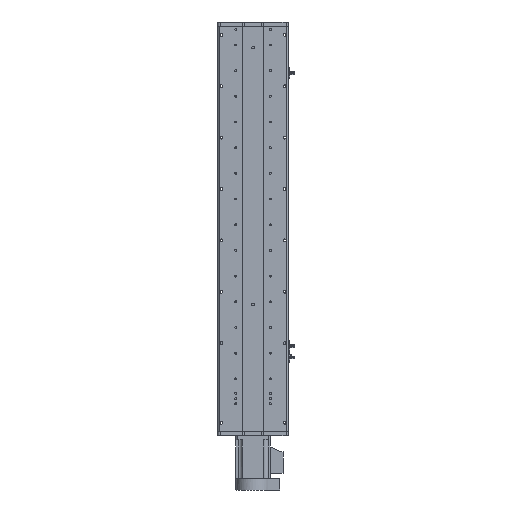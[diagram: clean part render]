
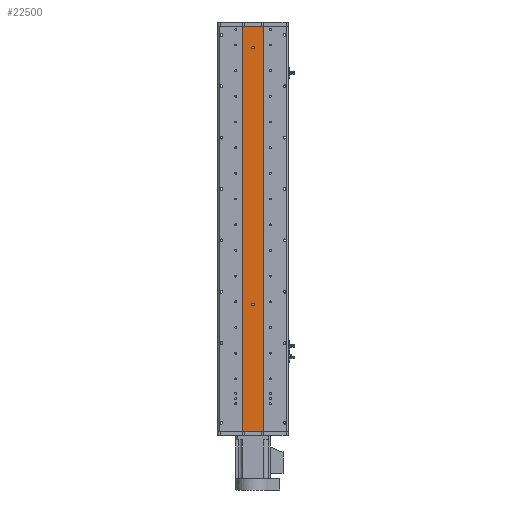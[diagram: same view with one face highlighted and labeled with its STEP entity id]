
A CAD part, front view. The second image highlights one B-rep face of the part: STEP entity #22500.
In plain terms, the highlighted planar face has unit normal (0, -1, 0).
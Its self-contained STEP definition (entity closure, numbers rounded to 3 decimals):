
#1372 = FACE_BOUND ( 'NONE', #15438, .T. ) ;
#1475 = CARTESIAN_POINT ( 'NONE',  ( -25., 1., 473. ) ) ;
#1587 = DIRECTION ( 'NONE',  ( 0., 0., -1. ) ) ;
#1902 = CARTESIAN_POINT ( 'NONE',  ( -25., 1., -473. ) ) ;
#2091 = CIRCLE ( 'NONE', #23851, 3. ) ;
#2110 = AXIS2_PLACEMENT_3D ( 'NONE', #37664, #19552, #1587 ) ;
#2176 = DIRECTION ( 'NONE',  ( 1., 0., 0. ) ) ;
#2999 = VERTEX_POINT ( 'NONE', #35002 ) ;
#3934 = EDGE_CURVE ( 'NONE', #17075, #25843, #2091, .T. ) ;
#5853 = VECTOR ( 'NONE', #22475, 1000. ) ;
#5854 = DIRECTION ( 'NONE',  ( 0., 0., -1. ) ) ;
#6751 = VERTEX_POINT ( 'NONE', #11586 ) ;
#6777 = LINE ( 'NONE', #1475, #5853 ) ;
#8964 = LINE ( 'NONE', #23827, #32605 ) ;
#9540 = ORIENTED_EDGE ( 'NONE', *, *, #3934, .F. ) ;
#10008 = AXIS2_PLACEMENT_3D ( 'NONE', #29385, #11315, #32426 ) ;
#10253 = CARTESIAN_POINT ( 'NONE',  ( 0., 1., -177. ) ) ;
#10382 = CARTESIAN_POINT ( 'NONE',  ( 0., 1., -174. ) ) ;
#10748 = EDGE_CURVE ( 'NONE', #35870, #37829, #29818, .T. ) ;
#11134 = DIRECTION ( 'NONE',  ( 0., 0., 1. ) ) ;
#11315 = DIRECTION ( 'NONE',  ( 0., -1., 0. ) ) ;
#11586 = CARTESIAN_POINT ( 'NONE',  ( 25., 1., 473. ) ) ;
#12208 = ORIENTED_EDGE ( 'NONE', *, *, #26473, .F. ) ;
#13281 = DIRECTION ( 'NONE',  ( 0., 0., -1. ) ) ;
#13345 = ORIENTED_EDGE ( 'NONE', *, *, #35517, .T. ) ;
#14920 = CARTESIAN_POINT ( 'NONE',  ( 0., 1., 423. ) ) ;
#15148 = CARTESIAN_POINT ( 'NONE',  ( 25., 1., -473. ) ) ;
#15435 = ORIENTED_EDGE ( 'NONE', *, *, #30311, .T. ) ;
#15438 = EDGE_LOOP ( 'NONE', ( #9540, #17898 ) ) ;
#15713 = VERTEX_POINT ( 'NONE', #15148 ) ;
#15885 = EDGE_CURVE ( 'NONE', #25843, #17075, #26753, .T. ) ;
#17075 = VERTEX_POINT ( 'NONE', #29277 ) ;
#17550 = EDGE_LOOP ( 'NONE', ( #33706, #36881 ) ) ;
#17898 = ORIENTED_EDGE ( 'NONE', *, *, #15885, .F. ) ;
#17916 = DIRECTION ( 'NONE',  ( 0., 0., -1. ) ) ;
#19552 = DIRECTION ( 'NONE',  ( 0., -1., 0. ) ) ;
#20352 = AXIS2_PLACEMENT_3D ( 'NONE', #23075, #29187, #11134 ) ;
#20692 = CIRCLE ( 'NONE', #10008, 3. ) ;
#21416 = LINE ( 'NONE', #25361, #37464 ) ;
#21647 = EDGE_CURVE ( 'NONE', #6751, #15713, #8964, .T. ) ;
#21968 = LINE ( 'NONE', #32209, #37110 ) ;
#22475 = DIRECTION ( 'NONE',  ( 0., 0., -1. ) ) ;
#22500 = ADVANCED_FACE ( 'NONE', ( #1372, #25338, #26283 ), #26111, .F. ) ;
#23075 = CARTESIAN_POINT ( 'NONE',  ( 25., 1., 473. ) ) ;
#23827 = CARTESIAN_POINT ( 'NONE',  ( 25., 1., 473. ) ) ;
#23851 = AXIS2_PLACEMENT_3D ( 'NONE', #14920, #36051, #17916 ) ;
#25146 = CARTESIAN_POINT ( 'NONE',  ( 0., 1., 426. ) ) ;
#25338 = FACE_BOUND ( 'NONE', #17550, .T. ) ;
#25361 = CARTESIAN_POINT ( 'NONE',  ( 25., 1., 473. ) ) ;
#25843 = VERTEX_POINT ( 'NONE', #25146 ) ;
#26111 = PLANE ( 'NONE',  #20352 ) ;
#26283 = FACE_OUTER_BOUND ( 'NONE', #31829, .T. ) ;
#26473 = EDGE_CURVE ( 'NONE', #2999, #6751, #21416, .T. ) ;
#26753 = CIRCLE ( 'NONE', #2110, 3. ) ;
#27618 = AXIS2_PLACEMENT_3D ( 'NONE', #10253, #31370, #13281 ) ;
#29148 = EDGE_CURVE ( 'NONE', #37829, #35870, #20692, .T. ) ;
#29187 = DIRECTION ( 'NONE',  ( 0., 1., 0. ) ) ;
#29277 = CARTESIAN_POINT ( 'NONE',  ( 0., 1., 420. ) ) ;
#29385 = CARTESIAN_POINT ( 'NONE',  ( 0., 1., -177. ) ) ;
#29541 = CARTESIAN_POINT ( 'NONE',  ( 0., 1., -180. ) ) ;
#29818 = CIRCLE ( 'NONE', #27618, 3. ) ;
#30001 = ORIENTED_EDGE ( 'NONE', *, *, #21647, .F. ) ;
#30295 = VERTEX_POINT ( 'NONE', #1902 ) ;
#30311 = EDGE_CURVE ( 'NONE', #30295, #15713, #21968, .T. ) ;
#31370 = DIRECTION ( 'NONE',  ( 0., -1., 0. ) ) ;
#31829 = EDGE_LOOP ( 'NONE', ( #15435, #30001, #12208, #13345 ) ) ;
#32209 = CARTESIAN_POINT ( 'NONE',  ( 25., 1., -473. ) ) ;
#32426 = DIRECTION ( 'NONE',  ( 0., 0., -1. ) ) ;
#32605 = VECTOR ( 'NONE', #5854, 1000. ) ;
#33706 = ORIENTED_EDGE ( 'NONE', *, *, #10748, .F. ) ;
#35002 = CARTESIAN_POINT ( 'NONE',  ( -25., 1., 473. ) ) ;
#35517 = EDGE_CURVE ( 'NONE', #2999, #30295, #6777, .T. ) ;
#35870 = VERTEX_POINT ( 'NONE', #29541 ) ;
#36051 = DIRECTION ( 'NONE',  ( 0., -1., 0. ) ) ;
#36881 = ORIENTED_EDGE ( 'NONE', *, *, #29148, .F. ) ;
#37110 = VECTOR ( 'NONE', #2176, 1000. ) ;
#37276 = DIRECTION ( 'NONE',  ( 1., 0., 0. ) ) ;
#37464 = VECTOR ( 'NONE', #37276, 1000. ) ;
#37664 = CARTESIAN_POINT ( 'NONE',  ( 0., 1., 423. ) ) ;
#37829 = VERTEX_POINT ( 'NONE', #10382 ) ;
